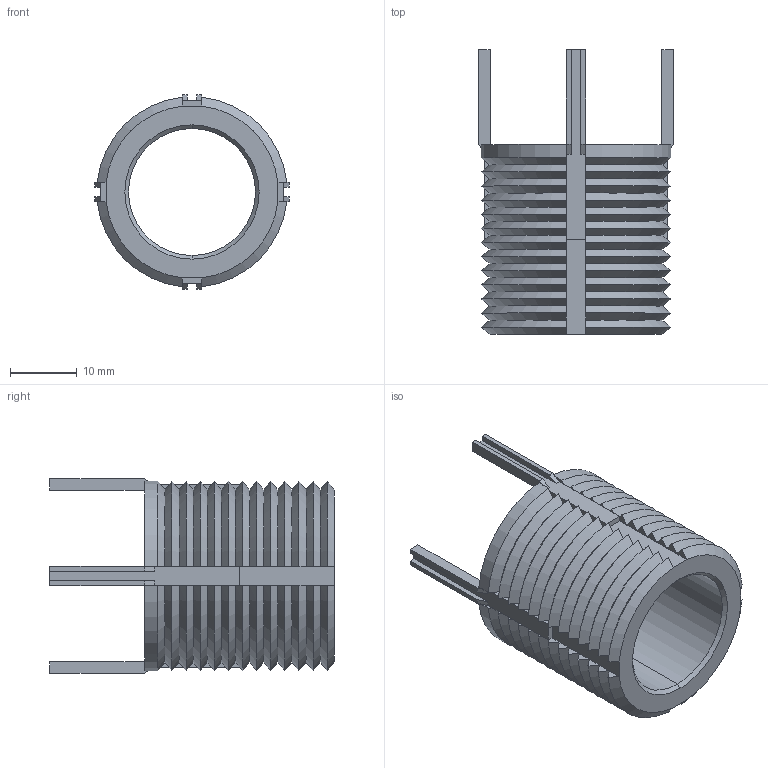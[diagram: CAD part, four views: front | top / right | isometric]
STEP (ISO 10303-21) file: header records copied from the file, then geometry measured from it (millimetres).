
FILE_DESCRIPTION (( 'STEP AP203' ), '1' );
FILE_NAME ('TR1565.66309.step', '2023-03-29T14:32:04', ( '' ), ( '' ), 'SwSTEP 2.0', 'SolidWorks 2019', '' );
FILE_SCHEMA (( 'CONFIG_CONTROL_DESIGN' ));
Length unit declared in the file: inch
Products named in the file (3): TR1565.66309; Part2_TR1565.66309; Part1_TR1565.66309
Assembly tree (5 placements, depth 2):
  TR1565.66309
    Part1_TR1565.66309
    Part2_TR1565.66309  x4
Bounding box: 29.16 x 42.67 x 29.16 mm (x, y, z)
Volume: 8696.1 mm3; surface area: 7101.9 mm2
Topology: 5 solids, 5 shells, 268 faces, 570 edges, 312 vertices
Faces by surface type: plane 158, cone 104, cylinder 6
Entity records: 7059 total; most frequent: CARTESIAN_POINT 2172, ORIENTED_EDGE 960, DIRECTION 876, EDGE_CURVE 480, AXIS2_PLACEMENT_3D 356, VERTEX_POINT 252, EDGE_LOOP 234, ADVANCED_FACE 232
